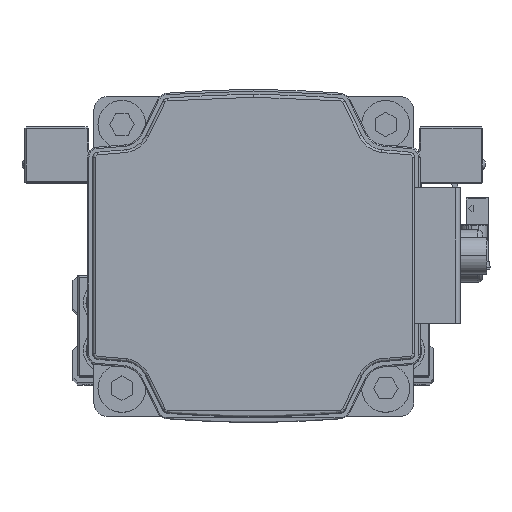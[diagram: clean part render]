
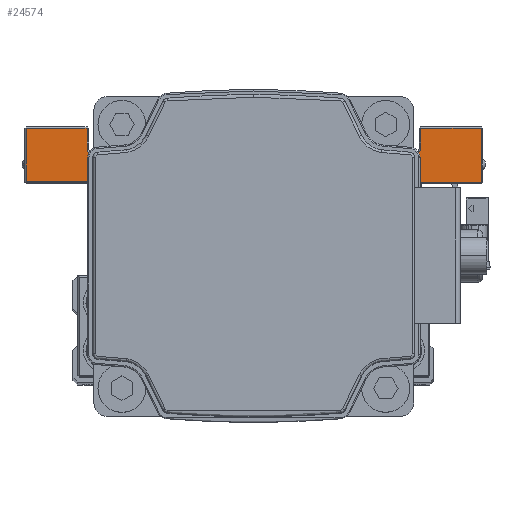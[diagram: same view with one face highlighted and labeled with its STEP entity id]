
A CAD part, top view. The second image highlights one B-rep face of the part: STEP entity #24574.
In plain terms, the highlighted planar face has unit normal (0, 0, 1) as drawn and (1, 0, 0) by its records, which use the part's own axes.
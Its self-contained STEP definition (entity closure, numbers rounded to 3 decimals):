
#9 = CARTESIAN_POINT ( 'NONE',  ( 45., 14., -31.3 ) ) ;
#229 = CIRCLE ( 'NONE', #22843, 1.3 ) ;
#884 = VERTEX_POINT ( 'NONE', #9 ) ;
#995 = LINE ( 'NONE', #13339, #32035 ) ;
#1159 = CARTESIAN_POINT ( 'NONE',  ( 45., 7.5, -19.7 ) ) ;
#1234 = VECTOR ( 'NONE', #34692, 1000. ) ;
#1568 = VERTEX_POINT ( 'NONE', #20913 ) ;
#1873 = LINE ( 'NONE', #14211, #36236 ) ;
#2016 = CARTESIAN_POINT ( 'NONE',  ( 45., 7.5, -42.7 ) ) ;
#2101 = ORIENTED_EDGE ( 'NONE', *, *, #19190, .T. ) ;
#2161 = EDGE_CURVE ( 'NONE', #22706, #4058, #9730, .T. ) ;
#2534 = ORIENTED_EDGE ( 'NONE', *, *, #21576, .T. ) ;
#2818 = DIRECTION ( 'NONE',  ( 0., -1., 0. ) ) ;
#2991 = PLANE ( 'NONE',  #8243 ) ;
#3585 = CARTESIAN_POINT ( 'NONE',  ( 45., 12.7, -30. ) ) ;
#3630 = VERTEX_POINT ( 'NONE', #3585 ) ;
#3793 = VERTEX_POINT ( 'NONE', #17334 ) ;
#4058 = VERTEX_POINT ( 'NONE', #9628 ) ;
#4505 = VERTEX_POINT ( 'NONE', #25337 ) ;
#4891 = ORIENTED_EDGE ( 'NONE', *, *, #31614, .T. ) ;
#5026 = EDGE_CURVE ( 'NONE', #12573, #17307, #995, .T. ) ;
#5258 = ORIENTED_EDGE ( 'NONE', *, *, #17459, .T. ) ;
#5312 = LINE ( 'NONE', #17640, #34131 ) ;
#5436 = CARTESIAN_POINT ( 'NONE',  ( 45., 14., 30. ) ) ;
#7532 = AXIS2_PLACEMENT_3D ( 'NONE', #5436, #17779, #30137 ) ;
#8243 = AXIS2_PLACEMENT_3D ( 'NONE', #15323, #27679, #39371 ) ;
#8601 = DIRECTION ( 'NONE',  ( 0., 0., 1. ) ) ;
#9453 = DIRECTION ( 'NONE',  ( 0., 0., 1. ) ) ;
#9575 = ORIENTED_EDGE ( 'NONE', *, *, #26474, .T. ) ;
#9577 = VERTEX_POINT ( 'NONE', #19777 ) ;
#9628 = CARTESIAN_POINT ( 'NONE',  ( 45., 7.8, 42.7 ) ) ;
#9730 = LINE ( 'NONE', #22063, #28142 ) ;
#10010 = LINE ( 'NONE', #22354, #1234 ) ;
#10258 = VERTEX_POINT ( 'NONE', #31373 ) ;
#10373 = ORIENTED_EDGE ( 'NONE', *, *, #2161, .T. ) ;
#10603 = ORIENTED_EDGE ( 'NONE', *, *, #12868, .T. ) ;
#11434 = CARTESIAN_POINT ( 'NONE',  ( 45., 17.7, -20. ) ) ;
#11547 = DIRECTION ( 'NONE',  ( 0., 0., -1. ) ) ;
#12573 = VERTEX_POINT ( 'NONE', #20431 ) ;
#12868 = EDGE_CURVE ( 'NONE', #17307, #4505, #28888, .T. ) ;
#13339 = CARTESIAN_POINT ( 'NONE',  ( 45., -8.2, -20. ) ) ;
#13505 = DIRECTION ( 'NONE',  ( 0., 1., 0. ) ) ;
#14211 = CARTESIAN_POINT ( 'NONE',  ( 45., 17.7, -20. ) ) ;
#14347 = DIRECTION ( 'NONE',  ( 0., 1., 0. ) ) ;
#14392 = ORIENTED_EDGE ( 'NONE', *, *, #31627, .T. ) ;
#14432 = ORIENTED_EDGE ( 'NONE', *, *, #5026, .T. ) ;
#14543 = LINE ( 'NONE', #26897, #32082 ) ;
#15323 = CARTESIAN_POINT ( 'NONE',  ( 45., 7.5, -20. ) ) ;
#16238 = EDGE_CURVE ( 'NONE', #10258, #1568, #1873, .T. ) ;
#17094 = EDGE_CURVE ( 'NONE', #3630, #9577, #23974, .T. ) ;
#17307 = VERTEX_POINT ( 'NONE', #25754 ) ;
#17334 = CARTESIAN_POINT ( 'NONE',  ( 45., 7.8, 19.7 ) ) ;
#17459 = EDGE_CURVE ( 'NONE', #3793, #12573, #5312, .T. ) ;
#17640 = CARTESIAN_POINT ( 'NONE',  ( 45., 7.5, 19.7 ) ) ;
#17779 = DIRECTION ( 'NONE',  ( -1., 0., 0. ) ) ;
#18196 = LINE ( 'NONE', #30550, #26167 ) ;
#18782 = EDGE_CURVE ( 'NONE', #31120, #22706, #39164, .T. ) ;
#19190 = EDGE_CURVE ( 'NONE', #4505, #24513, #26922, .T. ) ;
#19777 = CARTESIAN_POINT ( 'NONE',  ( 45., 12.7, 30. ) ) ;
#20431 = CARTESIAN_POINT ( 'NONE',  ( 45., -8.2, 19.7 ) ) ;
#20776 = VECTOR ( 'NONE', #8601, 1000. ) ;
#20911 = ORIENTED_EDGE ( 'NONE', *, *, #38436, .T. ) ;
#20913 = CARTESIAN_POINT ( 'NONE',  ( 45., 17.7, -31.3 ) ) ;
#21576 = EDGE_CURVE ( 'NONE', #884, #3630, #229, .T. ) ;
#22063 = CARTESIAN_POINT ( 'NONE',  ( 45., 7.5, 42.7 ) ) ;
#22104 = VECTOR ( 'NONE', #11547, 1000. ) ;
#22354 = CARTESIAN_POINT ( 'NONE',  ( 45., 7.5, 31.3 ) ) ;
#22706 = VERTEX_POINT ( 'NONE', #36186 ) ;
#22843 = AXIS2_PLACEMENT_3D ( 'NONE', #24809, #37150, #9453 ) ;
#22975 = VECTOR ( 'NONE', #13505, 1000. ) ;
#23782 = DIRECTION ( 'NONE',  ( 0., 0., 1. ) ) ;
#23947 = EDGE_LOOP ( 'NONE', ( #10603, #2101, #20911, #27775, #28931, #2534, #33723, #14392, #9575, #25655, #10373, #4891, #5258, #14432 ) ) ;
#23974 = LINE ( 'NONE', #36313, #20776 ) ;
#24234 = CARTESIAN_POINT ( 'NONE',  ( 45., 7.5, -42.7 ) ) ;
#24513 = VERTEX_POINT ( 'NONE', #24234 ) ;
#24574 = ADVANCED_FACE ( 'NONE', ( #30708 ), #2991, .F. ) ;
#24809 = CARTESIAN_POINT ( 'NONE',  ( 45., 14., -30. ) ) ;
#24965 = CIRCLE ( 'NONE', #7532, 1.3 ) ;
#25337 = CARTESIAN_POINT ( 'NONE',  ( 45., 7.5, -19.7 ) ) ;
#25655 = ORIENTED_EDGE ( 'NONE', *, *, #18782, .T. ) ;
#25687 = DIRECTION ( 'NONE',  ( 0., 0., -1. ) ) ;
#25754 = CARTESIAN_POINT ( 'NONE',  ( 45., -8.2, -19.7 ) ) ;
#26167 = VECTOR ( 'NONE', #2818, 1000. ) ;
#26474 = EDGE_CURVE ( 'NONE', #36775, #31120, #10010, .T. ) ;
#26557 = DIRECTION ( 'NONE',  ( 0., 0., 1. ) ) ;
#26897 = CARTESIAN_POINT ( 'NONE',  ( 45., 7.8, 20. ) ) ;
#26922 = LINE ( 'NONE', #39271, #22104 ) ;
#27679 = DIRECTION ( 'NONE',  ( -1., 0., 0. ) ) ;
#27775 = ORIENTED_EDGE ( 'NONE', *, *, #16238, .T. ) ;
#28142 = VECTOR ( 'NONE', #34396, 1000. ) ;
#28888 = LINE ( 'NONE', #1159, #22975 ) ;
#28931 = ORIENTED_EDGE ( 'NONE', *, *, #34014, .T. ) ;
#29736 = LINE ( 'NONE', #2016, #39770 ) ;
#29989 = DIRECTION ( 'NONE',  ( 0., -1., 0. ) ) ;
#30137 = DIRECTION ( 'NONE',  ( 0., 0., 1. ) ) ;
#30382 = CARTESIAN_POINT ( 'NONE',  ( 45., 17.7, 31.3 ) ) ;
#30386 = CARTESIAN_POINT ( 'NONE',  ( 45., 14., 31.3 ) ) ;
#30550 = CARTESIAN_POINT ( 'NONE',  ( 45., 7.5, -31.3 ) ) ;
#30708 = FACE_OUTER_BOUND ( 'NONE', #23947, .T. ) ;
#31120 = VERTEX_POINT ( 'NONE', #30382 ) ;
#31373 = CARTESIAN_POINT ( 'NONE',  ( 45., 17.7, -42.7 ) ) ;
#31614 = EDGE_CURVE ( 'NONE', #4058, #3793, #14543, .T. ) ;
#31627 = EDGE_CURVE ( 'NONE', #9577, #36775, #24965, .T. ) ;
#32035 = VECTOR ( 'NONE', #25687, 1000. ) ;
#32082 = VECTOR ( 'NONE', #39248, 1000. ) ;
#33723 = ORIENTED_EDGE ( 'NONE', *, *, #17094, .T. ) ;
#34014 = EDGE_CURVE ( 'NONE', #1568, #884, #18196, .T. ) ;
#34131 = VECTOR ( 'NONE', #29989, 1000. ) ;
#34396 = DIRECTION ( 'NONE',  ( 0., -1., 0. ) ) ;
#34692 = DIRECTION ( 'NONE',  ( 0., 1., 0. ) ) ;
#36186 = CARTESIAN_POINT ( 'NONE',  ( 45., 17.7, 42.7 ) ) ;
#36236 = VECTOR ( 'NONE', #26557, 1000. ) ;
#36313 = CARTESIAN_POINT ( 'NONE',  ( 45., 12.7, 30. ) ) ;
#36775 = VERTEX_POINT ( 'NONE', #30386 ) ;
#37150 = DIRECTION ( 'NONE',  ( -1., 0., 0. ) ) ;
#38436 = EDGE_CURVE ( 'NONE', #24513, #10258, #29736, .T. ) ;
#39164 = LINE ( 'NONE', #11434, #39545 ) ;
#39248 = DIRECTION ( 'NONE',  ( 0., 0., -1. ) ) ;
#39271 = CARTESIAN_POINT ( 'NONE',  ( 45., 7.5, 43. ) ) ;
#39371 = DIRECTION ( 'NONE',  ( 0., 0., 1. ) ) ;
#39545 = VECTOR ( 'NONE', #23782, 1000. ) ;
#39770 = VECTOR ( 'NONE', #14347, 1000. ) ;
